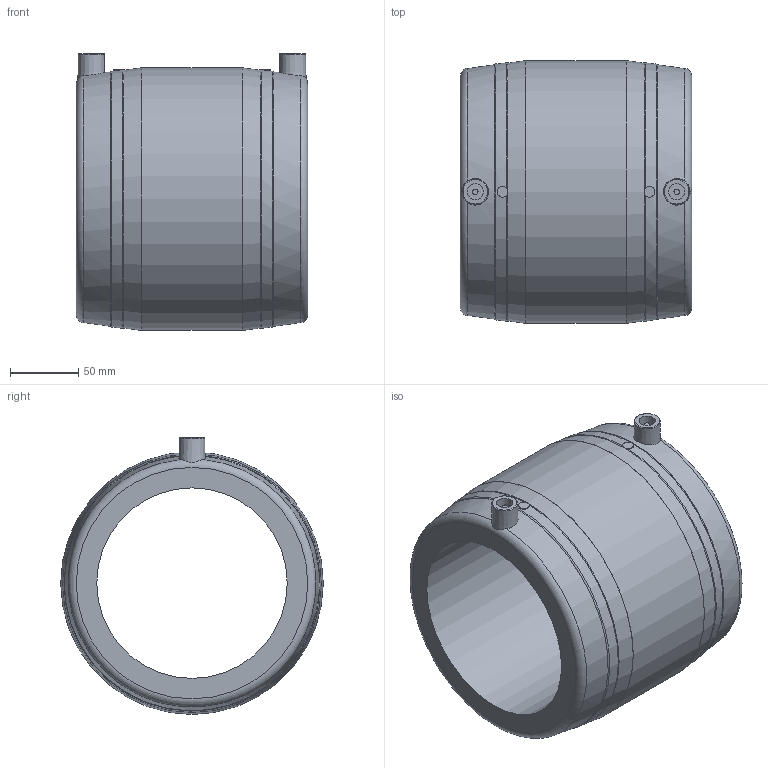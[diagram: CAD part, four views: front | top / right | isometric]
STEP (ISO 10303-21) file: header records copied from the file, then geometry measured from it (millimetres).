
FILE_DESCRIPTION(/* description */ ('Unknown'),/* implementation_level */ '2;1');
FILE_NAME(/* name */ 'MP140H',/* time_stamp */ '2021-05-26T17:41:09+02:00',/* author */ ('Unknown'),/* organization */ ('Unknown'),/* preprocessor_version */ 'ST-DEVELOPER v16.7',/* originating_system */ 'Solid Edge',/* authorisation */ 'Unknown');
FILE_SCHEMA (('AUTOMOTIVE_DESIGN {1 0 10303 214 3 1 1}'));
Length unit declared in the file: millimetre
Products named in the file (1): MP140H
Bounding box: 170 x 193 x 203.5 mm (x, y, z)
Volume: 2183497.5 mm3; surface area: 198201.2 mm2
Topology: 1 solids, 1 shells, 36 faces, 82 edges, 52 vertices
Faces by surface type: torus 10, plane 10, cone 8, cylinder 8
Full cylindrical faces by diameter (mm): 4 x2, 8 x2, 12 x2, 140 x1, 193 x1
Entity records: 836 total; most frequent: CARTESIAN_POINT 187, DIRECTION 138, ORIENTED_EDGE 84, AXIS2_PLACEMENT_3D 69, EDGE_LOOP 66, FACE_BOUND 66, EDGE_CURVE 42, VERTEX_POINT 36
